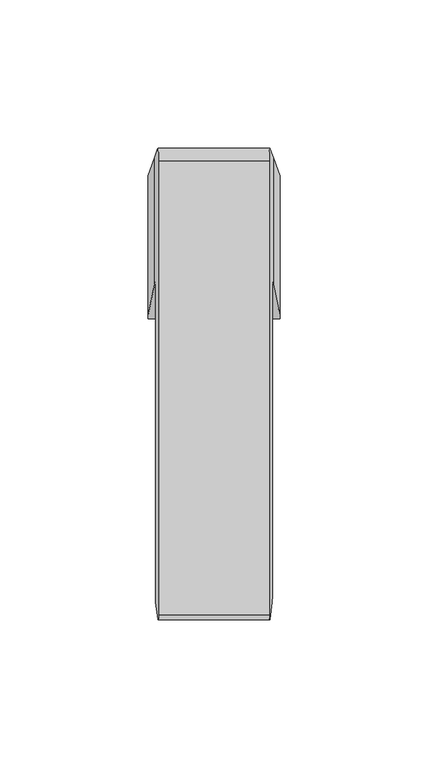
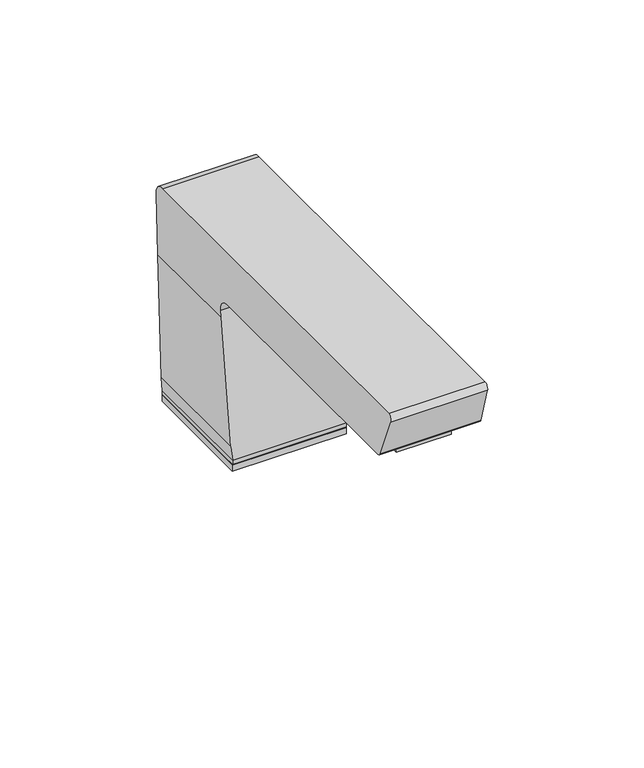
"""IFC4 building model written with IfcOpenShell, lengths in millimetres: proxy geometry, Soap_Dispenser-Bradley_Corp-Deck_Mounted-Verge_Zen_6-3700 : Verge Zen Series 6-3700."""

from ifc_helpers import new_model, si_unit, frame, origin, place, context, project, spatial, polyline, circle_curve, ellipse_curve, outline, extrude, faceted_brep, source, transform, mapped, element, save
from ifc_brep_helpers import plane_surface, cylinder_surface, revolved_surface, advanced_brep


def specialty_equipment_7b20ac78(model_context):
    return source(origin(), model_context, "Body", "SolidModel", [
        advanced_brep(
        [(22.225, -23.7327533, 4.5), (22.225, 23.7204881, 4.5), (22.225, 24.3858933, 9.5170886), (22.225, -22.6020665, 9.5170886), (-22.225, 23.7204881, 4.5), (-22.225, -23.7327533, 4.5), (-22.225, -22.6020665, 9.5170886), (-22.225, 24.3858933, 9.5170886), (19.6255376, -119.3765314, 64.3585503), (18.8594418, -125.1826875, 80.511076), (-18.8594418, -125.1826875, 80.511076), (-19.6255376, -119.3765314, 64.3585503), (19.6853858, -117.357977, 63.0966981), (-19.6853858, -117.357977, 63.0966981), (19.6853858, -15.6469667, 63.0966981), (-19.6853858, -15.6469667, 63.0966981), (19.9128478, -11.6078128, 58.3008419), (-19.9128478, -11.6078128, 58.3008419), (20.0325054, -12.1763884, 55.7779556), (-20.0325054, -12.1763884, 55.7779556), (-20.0325054, 30.5213679, 55.7779556), (-18.9432487, 33.5673125, 78.7440739), (18.9432487, 33.5673125, 78.7440739), (20.0325054, 30.5213679, 55.7779556), (18.7277175, 29.5302037, 83.2883778), (-18.7277175, 29.5302037, 83.2883778), (18.7277175, -123.6900038, 83.2883778), (-18.7277175, -123.6900038, 83.2883778)],
        [
            (0, 1),
            (1, 2),
            (2, 3),
            (3, 0),
            (4, 5),
            (5, 6),
            (6, 7),
            (7, 4),
            (8, 9),
            (9, 10),
            (10, 11),
            (11, 8),
            (12, 8, ellipse_curve(frame((19.5788871, -117.357977, 65.3421406), z_axis=(-0.9988771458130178, 0.0, -0.047375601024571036), x_axis=(0.04737560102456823, 0.0, -0.9988771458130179)), 2.2479666, 2.2454425)),
            (11, 13, ellipse_curve(frame((-19.5788871, -117.357977, 65.3421406), z_axis=(0.9988771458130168, 0.0, -0.04737560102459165), x_axis=(0.047375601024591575, 0.0, 0.9988771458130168)), 2.2479666, 2.2454425)),
            (13, 12),
            (14, 12),
            (13, 15),
            (15, 14),
            (16, 14, ellipse_curve(frame((19.8797897, -15.6469667, 58.997847), z_axis=(0.9988771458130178, 0.0, 0.047375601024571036), x_axis=(-0.04737560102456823, 0.0, 0.9988771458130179)), 4.1034588, 4.0988512)),
            (15, 17, ellipse_curve(frame((-19.8797897, -15.6469667, 58.997847), z_axis=(-0.9988771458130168, 0.0, 0.04737560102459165), x_axis=(-0.047375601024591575, 0.0, -0.9988771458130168)), 4.1034588, 4.0988512)),
            (17, 16),
            (5, 0),
            (3, 18),
            (18, 16),
            (17, 19),
            (19, 6),
            (1, 4),
            (7, 20),
            (20, 21),
            (21, 22),
            (22, 23),
            (23, 2),
            (24, 22, ellipse_curve(frame((18.9001113, 30.0149323, 79.6535921), z_axis=(-0.9988771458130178, 0.0, -0.047375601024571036), x_axis=(0.04737560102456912, 0.0, -0.9988771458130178)), 3.6710866, 3.6669645)),
            (21, 25, ellipse_curve(frame((-18.9001113, 30.0149323, 79.6535921), z_axis=(0.9988771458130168, 0.0, -0.04737560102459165), x_axis=(0.04737560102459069, 0.0, 0.9988771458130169)), 3.6710866, 3.6669645)),
            (25, 24),
            (26, 24),
            (25, 27),
            (27, 26),
            (9, 26, ellipse_curve(frame((18.8254215, -123.1872076, 81.2283674), z_axis=(-0.9988771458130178, 0.0, -0.047375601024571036), x_axis=(0.04737560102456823, 0.0, -0.9988771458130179)), 2.1228664, 2.1204827)),
            (27, 10, ellipse_curve(frame((-18.8254215, -123.1872076, 81.2283674), z_axis=(0.9988771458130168, 0.0, -0.04737560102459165), x_axis=(0.047375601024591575, 0.0, 0.9988771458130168)), 2.1228664, 2.1204827)),
            (18, 23),
            (20, 19),
        ],
        [
            plane_surface(frame((22.225, -119.3765314, 64.3585503), z_axis=(1.0000000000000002, 0.0, 0.0), x_axis=(0.0, 0.3382679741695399, -0.941049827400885))),
            plane_surface(frame((-22.225, -119.3765314, 64.3585503), z_axis=(-1.0000000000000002, 0.0, 0.0), x_axis=(0.0, -0.3382679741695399, 0.941049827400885))),
            plane_surface(frame((22.225, -125.1826875, 80.511076), z_axis=(0.0, -0.941049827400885, -0.3382679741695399), x_axis=(-1.0, 0.0, 0.0))),
            cylinder_surface(frame((-22.225, -117.357977, 65.3421406), z_axis=(1.0, 0.0, 0.0), x_axis=(0.0, 1.0, 0.0)), 2.2454425),
            plane_surface(frame((22.225, -117.357977, 63.0966981), z_axis=(0.0, 0.0, -1.0), x_axis=(-1.0, 0.0, 0.0))),
            revolved_surface(polyline([(-20.074193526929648, -11.5481155, 58.997847), (20.074193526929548, -11.5481155, 58.997847)]), (-22.225, -15.6469667, 58.997847), (-1.0, 0.0, 0.0)),
            plane_surface(frame((22.225, -11.6078128, 58.3008419), z_axis=(0.0, -0.9755329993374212, 0.21985305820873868), x_axis=(-1.0, 0.0, 0.0))),
            plane_surface(frame((22.225, 23.7204881, 4.5), z_axis=(0.0, 0.9913192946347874, -0.13147644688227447), x_axis=(-1.0, 0.0, 0.0))),
            cylinder_surface(frame((-22.225, 30.0149323, 79.6535921), z_axis=(1.0, 0.0, 0.0), x_axis=(0.0, 1.0, 0.0)), 3.6669645),
            plane_surface(frame((22.225, 29.5302037, 83.2883778), z_axis=(0.0, 0.0, 1.0), x_axis=(-1.0, 0.0, 0.0))),
            cylinder_surface(frame((-22.225, -123.1872076, 81.2283674), z_axis=(1.0, 0.0, 0.0), x_axis=(0.0, 1.0, 0.0)), 2.1204827),
            plane_surface(frame((22.225, -23.7327533, 4.5), z_axis=(0.0, 0.0, -1.0), x_axis=(-1.0, 0.0, 0.0))),
            plane_surface(frame((17.9630791, -170.9274179, 99.4101757), z_axis=(0.9988771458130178, 0.0, 0.047375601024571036), x_axis=(0.0, 1.0, 0.0))),
            plane_surface(frame((20.0325054, -170.9274179, 55.7779556), z_axis=(0.9988787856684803, 0.0, 0.04734101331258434), x_axis=(0.0, 1.0, 0.0))),
            plane_surface(frame((-20.0325054, -170.9274179, 55.7779556), z_axis=(-0.9988771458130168, 0.0, 0.04737560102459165), x_axis=(0.0, 1.0, 0.0))),
            plane_surface(frame((-22.225, -170.9274179, 9.5170886), z_axis=(-0.9988787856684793, 0.0, 0.04734101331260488), x_axis=(0.0, 1.0, 0.0))),
        ],
        [
            (0, [[1, 2, 3, 4]]),
            (1, [[5, 6, 7, 8]]),
            (2, [[9, 10, 11, 12]]),
            (3, [[13, -12, 14, 15]]),
            (4, [[16, -15, 17, 18]]),
            (5, [[19, -18, 20, 21]]),
            (6, [[22, -4, 23, 24, -21, 25, 26, -6]]),
            (7, [[27, -8, 28, 29, 30, 31, 32, -2]]),
            (8, [[33, -30, 34, 35]]),
            (9, [[36, -35, 37, 38]]),
            (10, [[39, -38, 40, -10]]),
            (11, [[-1, -22, -5, -27]]),
            (12, [[41, -31, -33, -36, -39, -9, -13, -16, -19, -24]]),
            (13, [[-41, -23, -3, -32]]),
            (14, [[42, -25, -20, -17, -14, -11, -40, -37, -34, -29]]),
            (15, [[-42, -28, -7, -26]]),
        ],
    ),
        faceted_brep([(22.225, -23.7224115, 2.5), (22.225, -23.7224115, 0.0), (22.225, 23.8, 0.0), (22.225, 23.8, 2.5), (-22.225, -23.7224115, 2.5), (-22.225, 23.8, 2.5), (-22.225, 23.8, 0.0), (-22.225, -23.7224115, 0.0)], [[[0, 1, 2, 3]], [[4, 5, 6, 7]], [[1, 0, 4, 7]], [[2, 1, 7, 6]], [[3, 2, 6, 5]], [[0, 3, 5, 4]]]),
        extrude(outline(polyline([(22.225, 23.8), (22.225, -23.7327533), (-22.225, -23.7327533), (-22.225, 23.8), (22.225, 23.8)])), frame((0.0, 0.0, 2.5), z_axis=(0.0, 0.0, 1.0), x_axis=(1.0, 0.0, 0.0)), (0.0, 0.0, 1.0), 2.0),
        advanced_brep(
        [(0.0, -111.3306457, 56.2655319), (0.0, -104.5693543, 56.2655319), (0.0, -105.2656854, 55.7779556), (0.0, -110.6343146, 55.7779556), (0.0, -112.0038476, 58.7779556), (0.0, -103.8961524, 58.7779556), (0.0, -107.95, 58.7779556), (0.0, -107.95, 55.7779556)],
        [
            (0, 1, circle_curve(frame((0.0, -107.95, 56.2655319), z_axis=(0.0, 0.0, -1.0), x_axis=(0.0, 1.0, 0.0)), 3.3806457)),
            (1, 2),
            (2, 3, circle_curve(frame((0.0, -107.95, 55.7779556), z_axis=(0.0, 0.0, 1.0), x_axis=(0.0, 1.0, 0.0)), 2.6843146)),
            (3, 0),
            (1, 0, circle_curve(frame((0.0, -107.95, 56.2655319), z_axis=(0.0, 0.0, -1.0), x_axis=(0.0, 1.0, 0.0)), 3.3806457)),
            (3, 2, circle_curve(frame((0.0, -107.95, 55.7779556), z_axis=(0.0, 0.0, 1.0), x_axis=(0.0, 1.0, 0.0)), 2.6843146)),
            (4, 5, circle_curve(frame((0.0, -107.95, 58.7779556), z_axis=(0.0, 0.0, -1.0), x_axis=(0.0, 1.0, 0.0)), 4.0538476)),
            (5, 1),
            (0, 4),
            (5, 4, circle_curve(frame((0.0, -107.95, 58.7779556), z_axis=(0.0, 0.0, -1.0), x_axis=(0.0, 1.0, 0.0)), 4.0538476)),
            (6, 5),
            (4, 6),
            (2, 7),
            (7, 3),
        ],
        [
            revolved_surface(polyline([(0.0, -105.2656854, 55.7779556), (0.0, -104.5693543, 56.2655319)]), (0.0, -107.95, 58.7779556), (0.0, 0.0, 1.0)),
            revolved_surface(polyline([(0.0, -104.5693543, 56.2655319), (0.0, -103.8961524, 58.7779556)]), (0.0, -107.95, 58.7779556), (0.0, 0.0, 1.0)),
            plane_surface(frame((0.0, -107.95, 58.7779556), z_axis=(0.0, 0.0, 1.0), x_axis=(0.0, 1.0, 0.0))),
            plane_surface(frame((0.0, -107.95, 55.7779556), z_axis=(0.0, 0.0, -1.0), x_axis=(0.0, 1.0, 0.0))),
        ],
        [
            (0, [[1, 2, 3, 4]]),
            (0, [[5, -4, 6, -2]]),
            (1, [[7, 8, -1, 9]]),
            (1, [[10, -9, -5, -8]]),
            (2, [[11, -7, 12]]),
            (2, [[-12, -10, -11]]),
            (3, [[-3, 13, 14]]),
            (3, [[-6, -14, -13]]),
        ],
    ),
        extrude(outline(polyline([(10.7407335, -72.1816246), (10.7407335, -114.7972743), (-10.7407335, -114.7972743), (-10.7407335, -72.1816246), (10.7407335, -72.1816246)])), frame((0.0, 0.0, 59.0583622), z_axis=(0.0, 0.0, 1.0), x_axis=(1.0, 0.0, 0.0)), (0.0, 0.0, 1.0), 6.3104879),
    ])


if __name__ == "__main__":
    model = new_model("IFC4")
    model_context = context("Model", 3, world=origin())
    ifc_project = project(units=[si_unit("LENGTHUNIT", "METRE", prefix="MILLI")], contexts=[model_context])
    site = spatial("IfcSite", under=ifc_project)
    building = spatial("IfcBuilding", under=site)
    placement = place(None, origin())
    specialty_equipment_shape = specialty_equipment_7b20ac78(model_context)
    element("IfcBuildingElementProxy", 1, Name="Soap_Dispenser-Bradley_Corp-Deck_Mounted-Verge_Zen_6-3700 : Verge Zen Series 6-3700", ObjectType="Soap_Dispenser-Bradley_Corp-Deck_Mounted-Verge_Zen_6-3700 : Verge Zen Series 6-3700", at=placement, inside=building, context=model_context, shape_type="MappedRepresentation", body=[
        mapped(specialty_equipment_shape, transform((0.0, 0.0, 0.0), x_axis=(1.0, 0.0, 0.0), y_axis=(0.0, 1.0, 0.0), z_axis=(0.0, 0.0, 1.0))),
    ])
    save(model, "model.ifc")
